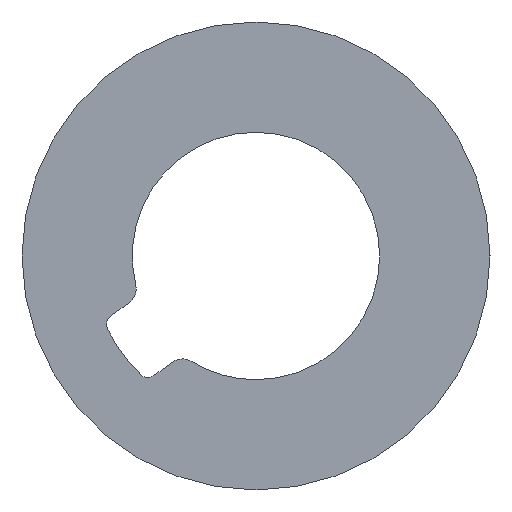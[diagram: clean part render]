
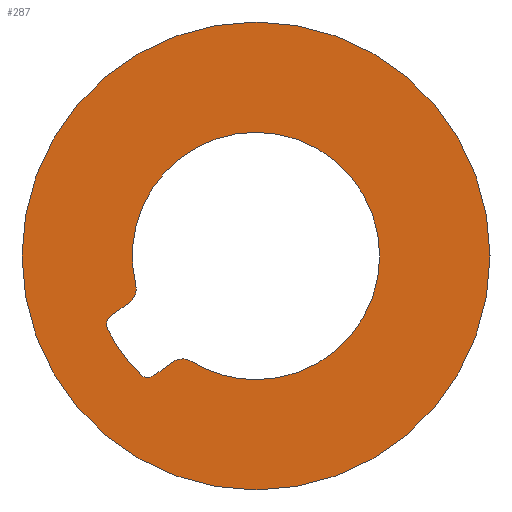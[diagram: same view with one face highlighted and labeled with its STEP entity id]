
A CAD part, left-side view. The second image highlights one B-rep face of the part: STEP entity #287.
In plain terms, the highlighted planar face has unit normal (-1, 0, 0).
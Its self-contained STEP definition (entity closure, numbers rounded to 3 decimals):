
#18 = AXIS2_PLACEMENT_3D ( 'NONE', #382, #381, #380 ) ;
#27 = AXIS2_PLACEMENT_3D ( 'NONE', #421, #420, #419 ) ;
#34 = AXIS2_PLACEMENT_3D ( 'NONE', #454, #453, #452 ) ;
#36 = AXIS2_PLACEMENT_3D ( 'NONE', #468, #467, #465 ) ;
#38 = AXIS2_PLACEMENT_3D ( 'NONE', #479, #477, #476 ) ;
#40 = AXIS2_PLACEMENT_3D ( 'NONE', #492, #491, #490 ) ;
#42 = AXIS2_PLACEMENT_3D ( 'NONE', #523, #522, #521 ) ;
#43 = AXIS2_PLACEMENT_3D ( 'NONE', #302, #525, #524 ) ;
#44 = AXIS2_PLACEMENT_3D ( 'NONE', #363, #359, #353 ) ;
#45 = AXIS2_PLACEMENT_3D ( 'NONE', #385, #383, #378 ) ;
#47 = AXIS2_PLACEMENT_3D ( 'NONE', #418, #417, #413 ) ;
#48 = AXIS2_PLACEMENT_3D ( 'NONE', #430, #427, #423 ) ;
#49 = EDGE_CURVE ( 'NONE', #466, #513, #232, .T. ) ;
#50 = EDGE_CURVE ( 'NONE', #516, #455, #228, .T. ) ;
#53 = EDGE_CURVE ( 'NONE', #435, #474, #222, .T. ) ;
#54 = EDGE_CURVE ( 'NONE', #474, #482, #225, .T. ) ;
#55 = EDGE_CURVE ( 'NONE', #482, #516, #220, .T. ) ;
#56 = EDGE_CURVE ( 'NONE', #455, #447, #217, .T. ) ;
#57 = EDGE_CURVE ( 'NONE', #447, #462, #215, .T. ) ;
#66 = EDGE_CURVE ( 'NONE', #497, #507, #199, .T. ) ;
#70 = EDGE_CURVE ( 'NONE', #444, #486, #191, .T. ) ;
#73 = EDGE_CURVE ( 'NONE', #513, #444, #185, .T. ) ;
#77 = EDGE_CURVE ( 'NONE', #486, #435, #177, .T. ) ;
#86 = EDGE_CURVE ( 'NONE', #507, #497, #157, .T. ) ;
#87 = EDGE_CURVE ( 'NONE', #462, #466, #158, .T. ) ;
#93 = ORIENTED_EDGE ( 'NONE', *, *, #87, .T. ) ;
#94 = ORIENTED_EDGE ( 'NONE', *, *, #66, .F. ) ;
#95 = ORIENTED_EDGE ( 'NONE', *, *, #86, .F. ) ;
#96 = ORIENTED_EDGE ( 'NONE', *, *, #49, .T. ) ;
#97 = ORIENTED_EDGE ( 'NONE', *, *, #70, .T. ) ;
#98 = ORIENTED_EDGE ( 'NONE', *, *, #73, .T. ) ;
#103 = ORIENTED_EDGE ( 'NONE', *, *, #54, .T. ) ;
#104 = ORIENTED_EDGE ( 'NONE', *, *, #53, .T. ) ;
#105 = ORIENTED_EDGE ( 'NONE', *, *, #77, .T. ) ;
#106 = ORIENTED_EDGE ( 'NONE', *, *, #56, .T. ) ;
#107 = ORIENTED_EDGE ( 'NONE', *, *, #50, .T. ) ;
#108 = ORIENTED_EDGE ( 'NONE', *, *, #55, .T. ) ;
#109 = ORIENTED_EDGE ( 'NONE', *, *, #57, .T. ) ;
#141 = FACE_BOUND ( 'NONE', #235, .T. ) ;
#142 = FACE_OUTER_BOUND ( 'NONE', #236, .T. ) ;
#156 = VECTOR ( 'NONE', #415, 1000. ) ;
#157 = CIRCLE ( 'NONE', #27, 7. ) ;
#158 = LINE ( 'NONE', #416, #156 ) ;
#177 = CIRCLE ( 'NONE', #34, 3.7 ) ;
#185 = CIRCLE ( 'NONE', #36, 3.7 ) ;
#191 = CIRCLE ( 'NONE', #38, 3.7 ) ;
#199 = CIRCLE ( 'NONE', #40, 7. ) ;
#215 = CIRCLE ( 'NONE', #42, 0.3 ) ;
#217 = CIRCLE ( 'NONE', #43, 4.95 ) ;
#220 = CIRCLE ( 'NONE', #44, 0.3 ) ;
#221 = VECTOR ( 'NONE', #368, 1000. ) ;
#222 = CIRCLE ( 'NONE', #45, 0.5 ) ;
#225 = LINE ( 'NONE', #371, #221 ) ;
#228 = CIRCLE ( 'NONE', #47, 0.3 ) ;
#232 = CIRCLE ( 'NONE', #48, 0.5 ) ;
#235 = EDGE_LOOP ( 'NONE', ( #93, #96, #98, #97, #105, #104, #103, #108, #107, #106, #109 ) ) ;
#236 = EDGE_LOOP ( 'NONE', ( #95, #94 ) ) ;
#287 = ADVANCED_FACE ( 'NONE', ( #142, #141 ), #384, .F. ) ;
#302 = CARTESIAN_POINT ( 'NONE',  ( -164.5, 0., 0. ) ) ;
#318 = CARTESIAN_POINT ( 'NONE',  ( -164.5, 3.236, -3.64 ) ) ;
#319 = CARTESIAN_POINT ( 'NONE',  ( -164.5, 3.596, -0.87 ) ) ;
#323 = CARTESIAN_POINT ( 'NONE',  ( -164.5, 0., 7. ) ) ;
#327 = CARTESIAN_POINT ( 'NONE',  ( -164.5, 0., -7. ) ) ;
#330 = CARTESIAN_POINT ( 'NONE',  ( -164.5, 0., -3.7 ) ) ;
#331 = CARTESIAN_POINT ( 'NONE',  ( -164.5, 3.059, -3.582 ) ) ;
#333 = CARTESIAN_POINT ( 'NONE',  ( -164.5, 2.495, -3.172 ) ) ;
#335 = CARTESIAN_POINT ( 'NONE',  ( -164.5, 3.788, -1.393 ) ) ;
#336 = CARTESIAN_POINT ( 'NONE',  ( -164.5, 4.352, -1.803 ) ) ;
#338 = CARTESIAN_POINT ( 'NONE',  ( -164.5, 3.444, -3.555 ) ) ;
#340 = CARTESIAN_POINT ( 'NONE',  ( -164.5, 4.445, -2.177 ) ) ;
#341 = CARTESIAN_POINT ( 'NONE',  ( -164.5, 0., 3.7 ) ) ;
#343 = CARTESIAN_POINT ( 'NONE',  ( -164.5, 1.939, -3.151 ) ) ;
#353 = DIRECTION ( 'NONE',  ( 0., 0., 1. ) ) ;
#359 = DIRECTION ( 'NONE',  ( 1., 0., 0. ) ) ;
#363 = CARTESIAN_POINT ( 'NONE',  ( -164.5, 3.236, -3.34 ) ) ;
#368 = DIRECTION ( 'NONE',  ( 0., 0.809, -0.588 ) ) ;
#371 = CARTESIAN_POINT ( 'NONE',  ( -164.5, 3.059, -3.582 ) ) ;
#378 = DIRECTION ( 'NONE',  ( 0., 0., -1. ) ) ;
#380 = DIRECTION ( 'NONE',  ( 0., 0., -1. ) ) ;
#381 = DIRECTION ( 'NONE',  ( 1., 0., 0. ) ) ;
#382 = CARTESIAN_POINT ( 'NONE',  ( -164.5, 0., 0. ) ) ;
#383 = DIRECTION ( 'NONE',  ( -1., 0., 0. ) ) ;
#384 = PLANE ( 'NONE',  #18 ) ;
#385 = CARTESIAN_POINT ( 'NONE',  ( -164.5, 2.201, -3.577 ) ) ;
#413 = DIRECTION ( 'NONE',  ( 0., 0., 1. ) ) ;
#415 = DIRECTION ( 'NONE',  ( 0., -0.809, 0.588 ) ) ;
#416 = CARTESIAN_POINT ( 'NONE',  ( -164.5, 3.788, -1.393 ) ) ;
#417 = DIRECTION ( 'NONE',  ( 1., 0., 0. ) ) ;
#418 = CARTESIAN_POINT ( 'NONE',  ( -164.5, 3.236, -3.34 ) ) ;
#419 = DIRECTION ( 'NONE',  ( 0., 0., -1. ) ) ;
#420 = DIRECTION ( 'NONE',  ( 1., 0., 0. ) ) ;
#421 = CARTESIAN_POINT ( 'NONE',  ( -164.5, 0., 0. ) ) ;
#423 = DIRECTION ( 'NONE',  ( 0., 0., 1. ) ) ;
#427 = DIRECTION ( 'NONE',  ( -1., 0., 0. ) ) ;
#430 = CARTESIAN_POINT ( 'NONE',  ( -164.5, 4.082, -0.988 ) ) ;
#435 = VERTEX_POINT ( 'NONE', #343 ) ;
#444 = VERTEX_POINT ( 'NONE', #341 ) ;
#447 = VERTEX_POINT ( 'NONE', #340 ) ;
#452 = DIRECTION ( 'NONE',  ( 0., 0., -1. ) ) ;
#453 = DIRECTION ( 'NONE',  ( 1., 0., 0. ) ) ;
#454 = CARTESIAN_POINT ( 'NONE',  ( -164.5, 0., 0. ) ) ;
#455 = VERTEX_POINT ( 'NONE', #338 ) ;
#462 = VERTEX_POINT ( 'NONE', #336 ) ;
#465 = DIRECTION ( 'NONE',  ( 0., 0., -1. ) ) ;
#466 = VERTEX_POINT ( 'NONE', #335 ) ;
#467 = DIRECTION ( 'NONE',  ( 1., 0., 0. ) ) ;
#468 = CARTESIAN_POINT ( 'NONE',  ( -164.5, 0., 0. ) ) ;
#474 = VERTEX_POINT ( 'NONE', #333 ) ;
#476 = DIRECTION ( 'NONE',  ( 0., 0., -1. ) ) ;
#477 = DIRECTION ( 'NONE',  ( 1., 0., 0. ) ) ;
#479 = CARTESIAN_POINT ( 'NONE',  ( -164.5, 0., 0. ) ) ;
#482 = VERTEX_POINT ( 'NONE', #331 ) ;
#486 = VERTEX_POINT ( 'NONE', #330 ) ;
#490 = DIRECTION ( 'NONE',  ( 0., 0., -1. ) ) ;
#491 = DIRECTION ( 'NONE',  ( 1., 0., 0. ) ) ;
#492 = CARTESIAN_POINT ( 'NONE',  ( -164.5, 0., 0. ) ) ;
#497 = VERTEX_POINT ( 'NONE', #327 ) ;
#507 = VERTEX_POINT ( 'NONE', #323 ) ;
#513 = VERTEX_POINT ( 'NONE', #319 ) ;
#516 = VERTEX_POINT ( 'NONE', #318 ) ;
#521 = DIRECTION ( 'NONE',  ( 0., 0., -1. ) ) ;
#522 = DIRECTION ( 'NONE',  ( 1., 0., 0. ) ) ;
#523 = CARTESIAN_POINT ( 'NONE',  ( -164.5, 4.176, -2.045 ) ) ;
#524 = DIRECTION ( 'NONE',  ( 0., 0., 1. ) ) ;
#525 = DIRECTION ( 'NONE',  ( 1., 0., 0. ) ) ;
